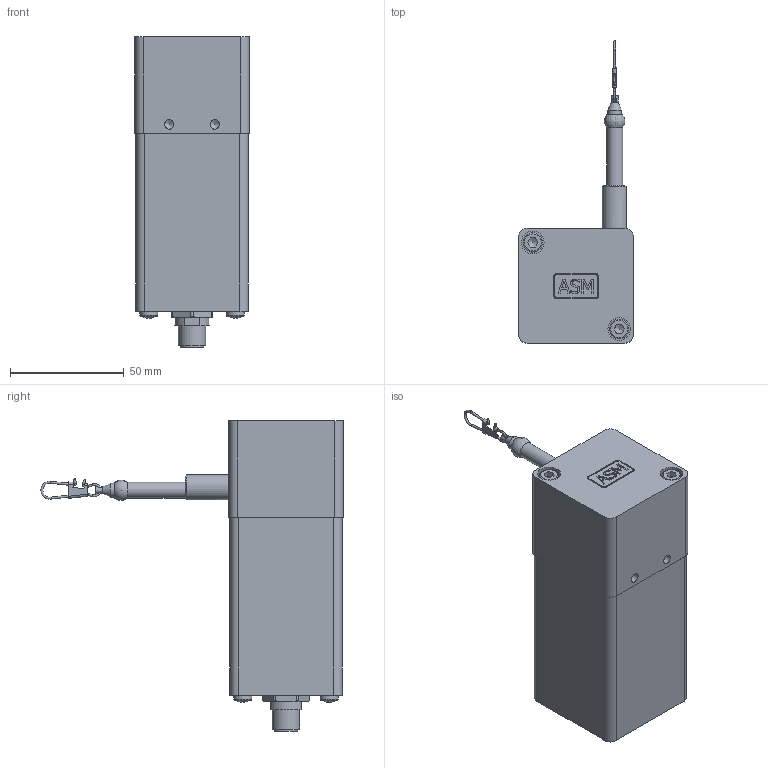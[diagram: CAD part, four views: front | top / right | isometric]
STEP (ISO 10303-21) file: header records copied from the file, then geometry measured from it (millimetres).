
FILE_DESCRIPTION((''),'2;1');
FILE_NAME('K:\Daten\WS10 1250 PP530 SB0 M12.stp','2014-09-24T11:59:45',('kamp'),(''),'Autodesk Inventor 2008','Autodesk Inventor 2008','');
FILE_SCHEMA(('AUTOMOTIVE_DESIGN { 1 0 10303 214 1 1 1 1 }'));
Length unit declared in the file: millimetre
Products named in the file (1): Bauteil14
Bounding box: 50.35 x 132.79 x 136.4 mm (x, y, z)
Volume: 301934.4 mm3; surface area: 32456.1 mm2
Topology: 1 solids, 1 shells, 286 faces, 750 edges, 489 vertices
Faces by surface type: plane 153, cylinder 60, bspline 56, cone 9, torus 7, sphere 1
Full cylindrical faces by diameter (mm): 0.6 x8, 0.8 x1, 0.9 x7, 1.5 x1, 3 x1, 6 x1, 7 x1, 8 x2, 8.5 x2, 10.4 x1, 12 x1
Entity records: 10381 total; most frequent: CARTESIAN_POINT 4132, ORIENTED_EDGE 1300, DIRECTION 1137, EDGE_CURVE 650, VERTEX_POINT 454, AXIS2_PLACEMENT_3D 392, EDGE_LOOP 386, VECTOR 353
